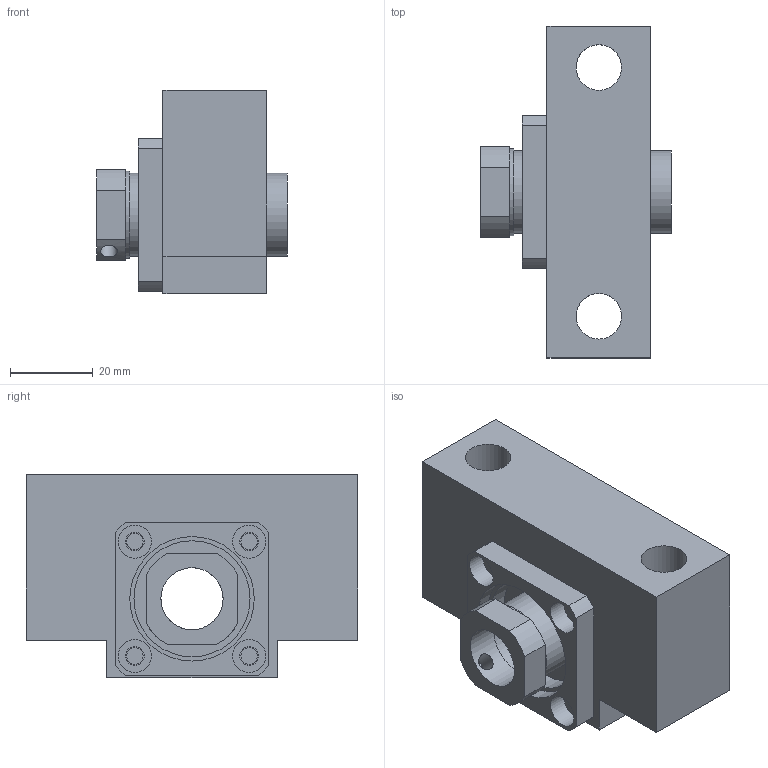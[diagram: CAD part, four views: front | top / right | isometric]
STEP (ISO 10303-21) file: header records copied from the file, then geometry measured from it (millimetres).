
FILE_DESCRIPTION(/* description */ (''),/* implementation_level */ '2;1');
FILE_NAME(/* name */ 'AK15-STP.stp',/* time_stamp */ '2019-11-18T15:24:49+08:00',/* author */ (''),/* organization */ (''),/* preprocessor_version */ 'ST-DEVELOPER v14',/* originating_system */ 'SIEMENS PLM Software NX 8.0',/* authorisation */ '');
FILE_SCHEMA (('AUTOMOTIVE_DESIGN { 1 0 10303 214 3 1 1 1 }'));
Length unit declared in the file: millimetre
Products named in the file (6): AK15-ZT; AK15-LID; GT-20-15-10; M15; 7002; AK15
Assembly tree (7 placements, depth 2):
  AK15
    7002  x2
    M15
    GT-20-15-10  x2
    AK15-LID
    AK15-ZT
Bounding box: 46 x 80 x 49 mm (x, y, z)
Volume: 77356.8 mm3; surface area: 31538.6 mm2
Topology: 7 solids, 7 shells, 85 faces, 174 edges, 117 vertices
Faces by surface type: plane 44, cylinder 41
Full cylindrical faces by diameter (mm): 4 x6, 4.5 x4, 8 x4, 11 x2, 15 x5, 17 x2, 20 x2, 21 x1, 28 x2, 30 x1, 32 x4
Entity records: 2352 total; most frequent: CARTESIAN_POINT 549, DIRECTION 366, ORIENTED_EDGE 260, AXIS2_PLACEMENT_3D 155, EDGE_LOOP 146, EDGE_CURVE 130, FACE_BOUND 123, VERTEX_POINT 106
